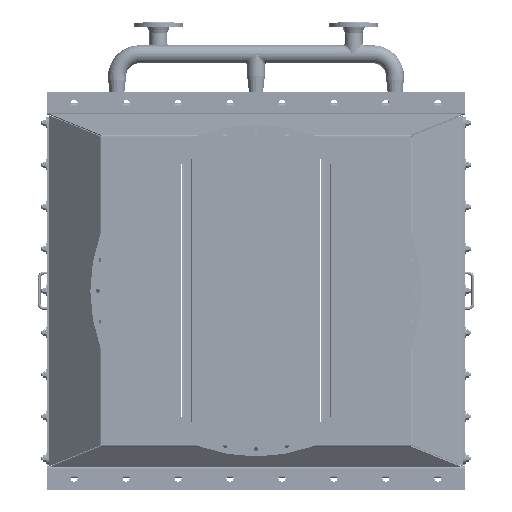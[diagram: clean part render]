
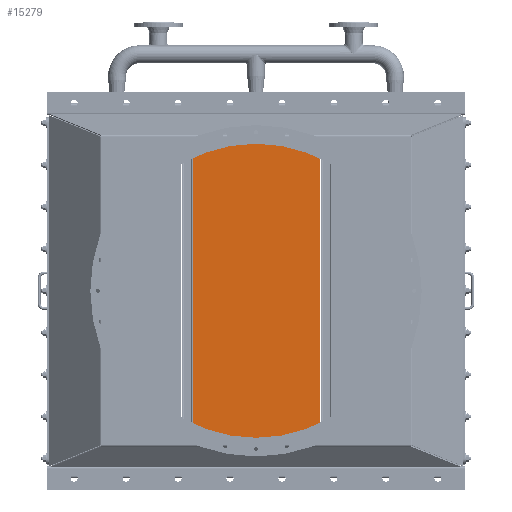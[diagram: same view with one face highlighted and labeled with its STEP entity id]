
A CAD part, front view. The second image highlights one B-rep face of the part: STEP entity #15279.
In plain terms, the highlighted planar face has unit normal (0, -1, 0).
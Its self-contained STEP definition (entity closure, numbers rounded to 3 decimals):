
#574 = LINE ( 'NONE', #3542, #29638 ) ;
#818 = EDGE_LOOP ( 'NONE', ( #7040, #3487, #1475, #22524 ) ) ;
#1475 = ORIENTED_EDGE ( 'NONE', *, *, #21924, .F. ) ;
#3438 = VERTEX_POINT ( 'NONE', #4148 ) ;
#3487 = ORIENTED_EDGE ( 'NONE', *, *, #27113, .F. ) ;
#3542 = CARTESIAN_POINT ( 'NONE',  ( 215., -294., -20. ) ) ;
#4148 = CARTESIAN_POINT ( 'NONE',  ( 215., -294., -20. ) ) ;
#6494 = DIRECTION ( 'NONE',  ( 0., 0., 1. ) ) ;
#7040 = ORIENTED_EDGE ( 'NONE', *, *, #22734, .T. ) ;
#7358 = CARTESIAN_POINT ( 'NONE',  ( 215., -294., -1207. ) ) ;
#8241 = DIRECTION ( 'NONE',  ( 0., 0., 1. ) ) ;
#11106 = DIRECTION ( 'NONE',  ( -1., 0., 0. ) ) ;
#12854 = VECTOR ( 'NONE', #6494, 1000. ) ;
#13122 = CARTESIAN_POINT ( 'NONE',  ( 215., -294., -1207. ) ) ;
#14049 = LINE ( 'NONE', #29906, #22131 ) ;
#15086 = VERTEX_POINT ( 'NONE', #7358 ) ;
#15109 = VERTEX_POINT ( 'NONE', #23188 ) ;
#15279 = ADVANCED_FACE ( 'NONE', ( #25371 ), #15485, .F. ) ;
#15485 = PLANE ( 'NONE',  #21897 ) ;
#15708 = DIRECTION ( 'NONE',  ( 0., 1., 0. ) ) ;
#15784 = DIRECTION ( 'NONE',  ( -1., 0., 0. ) ) ;
#18894 = VERTEX_POINT ( 'NONE', #20427 ) ;
#20427 = CARTESIAN_POINT ( 'NONE',  ( -215., -294., -20. ) ) ;
#21897 = AXIS2_PLACEMENT_3D ( 'NONE', #13122, #15708, #8241 ) ;
#21924 = EDGE_CURVE ( 'NONE', #15086, #15109, #32028, .T. ) ;
#22131 = VECTOR ( 'NONE', #32467, 1000. ) ;
#22343 = CARTESIAN_POINT ( 'NONE',  ( -215., -294., -1207. ) ) ;
#22524 = ORIENTED_EDGE ( 'NONE', *, *, #28618, .T. ) ;
#22734 = EDGE_CURVE ( 'NONE', #3438, #18894, #574, .T. ) ;
#23188 = CARTESIAN_POINT ( 'NONE',  ( -215., -294., -1207. ) ) ;
#25371 = FACE_OUTER_BOUND ( 'NONE', #818, .T. ) ;
#26616 = CARTESIAN_POINT ( 'NONE',  ( 215., -294., -1207. ) ) ;
#27113 = EDGE_CURVE ( 'NONE', #15109, #18894, #28563, .T. ) ;
#28447 = VECTOR ( 'NONE', #15784, 1000. ) ;
#28563 = LINE ( 'NONE', #22343, #12854 ) ;
#28618 = EDGE_CURVE ( 'NONE', #15086, #3438, #14049, .T. ) ;
#29638 = VECTOR ( 'NONE', #11106, 1000. ) ;
#29906 = CARTESIAN_POINT ( 'NONE',  ( 215., -294., -1207. ) ) ;
#32028 = LINE ( 'NONE', #26616, #28447 ) ;
#32467 = DIRECTION ( 'NONE',  ( 0., 0., 1. ) ) ;
